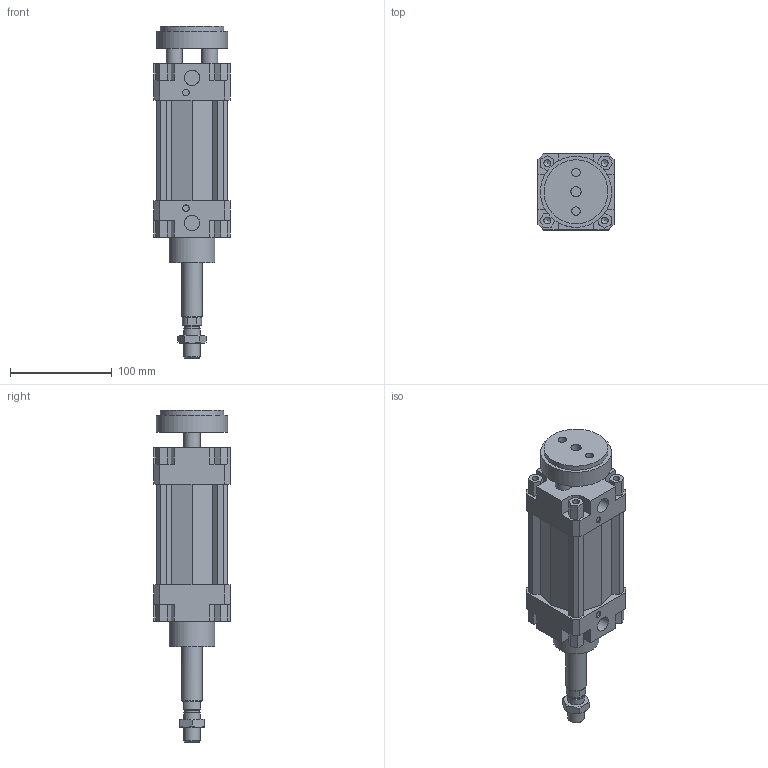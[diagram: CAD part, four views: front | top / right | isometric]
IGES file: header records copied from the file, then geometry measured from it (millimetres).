
Global section: file name: 132#_063_0050_02; native system: Autodesk Inventor 2014; preprocessor: unknown; author: A. Manieri; date: 20161006.155859; units: millimetre
Bounding box: 75 x 75 x 327 mm (x, y, z)
Volume: 809307 mm3; surface area: 159674.1 mm2
Topology: 3 solids, 3 shells, 220 faces, 589 edges, 397 vertices
Faces by surface type: bspline 220
